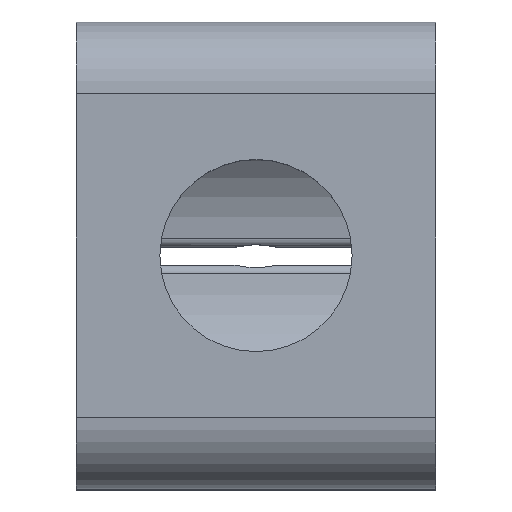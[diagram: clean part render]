
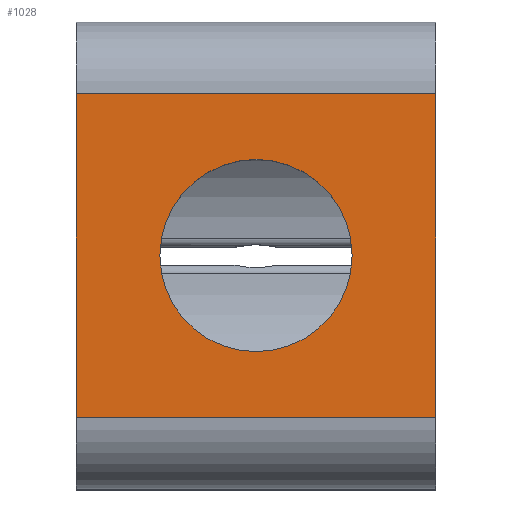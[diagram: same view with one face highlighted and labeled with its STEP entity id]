
A CAD part, top view. The second image highlights one B-rep face of the part: STEP entity #1028.
In plain terms, the highlighted planar face has unit normal (0, 0, 1).
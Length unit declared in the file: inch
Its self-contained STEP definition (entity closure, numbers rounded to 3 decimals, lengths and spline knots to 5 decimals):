
#51=FACE_BOUND('',#201,.T.);
#69=CIRCLE('',#1090,0.2675);
#144=FACE_OUTER_BOUND('',#200,.T.);
#200=EDGE_LOOP('',(#862,#863,#864,#865));
#201=EDGE_LOOP('',(#866));
#258=LINE('',#1666,#352);
#291=LINE('',#1767,#385);
#292=LINE('',#1770,#386);
#293=LINE('',#1771,#387);
#352=VECTOR('',#1302,0.3937);
#385=VECTOR('',#1411,0.3937);
#386=VECTOR('',#1414,0.3937);
#387=VECTOR('',#1415,0.3937);
#443=VERTEX_POINT('',#1620);
#463=VERTEX_POINT('',#1663);
#464=VERTEX_POINT('',#1665);
#494=VERTEX_POINT('',#1765);
#495=VERTEX_POINT('',#1769);
#558=EDGE_CURVE('',#443,#443,#69,.T.);
#581=EDGE_CURVE('',#463,#464,#258,.T.);
#632=EDGE_CURVE('',#463,#494,#291,.T.);
#633=EDGE_CURVE('',#495,#494,#292,.T.);
#634=EDGE_CURVE('',#464,#495,#293,.T.);
#862=ORIENTED_EDGE('',*,*,#632,.T.);
#863=ORIENTED_EDGE('',*,*,#633,.F.);
#864=ORIENTED_EDGE('',*,*,#634,.F.);
#865=ORIENTED_EDGE('',*,*,#581,.F.);
#866=ORIENTED_EDGE('',*,*,#558,.T.);
#983=PLANE('',#1142);
#1028=ADVANCED_FACE('',(#144,#51),#983,.T.);
#1090=AXIS2_PLACEMENT_3D('',#1621,#1264,#1265);
#1142=AXIS2_PLACEMENT_3D('',#1768,#1412,#1413);
#1264=DIRECTION('center_axis',(0.,0.,-1.));
#1265=DIRECTION('ref_axis',(-1.,0.,0.));
#1302=DIRECTION('',(0.,1.,0.));
#1411=DIRECTION('',(1.,0.,0.));
#1412=DIRECTION('center_axis',(0.,0.,1.));
#1413=DIRECTION('ref_axis',(0.,-1.,0.));
#1414=DIRECTION('',(0.,-1.,0.));
#1415=DIRECTION('',(1.,0.,0.));
#1620=CARTESIAN_POINT('',(0.2675,0.,1.3775));
#1621=CARTESIAN_POINT('Origin',(0.,0.,1.3775));
#1663=CARTESIAN_POINT('',(-0.5,-0.45046,1.3775));
#1665=CARTESIAN_POINT('',(-0.5,0.45046,1.3775));
#1666=CARTESIAN_POINT('',(-0.5,0.,1.3775));
#1765=CARTESIAN_POINT('',(0.5,-0.45046,1.3775));
#1767=CARTESIAN_POINT('',(0.,-0.45046,1.3775));
#1768=CARTESIAN_POINT('Origin',(0.,0.45046,1.3775));
#1769=CARTESIAN_POINT('',(0.5,0.45046,1.3775));
#1770=CARTESIAN_POINT('',(0.5,0.,1.3775));
#1771=CARTESIAN_POINT('',(0.,0.45046,1.3775));
